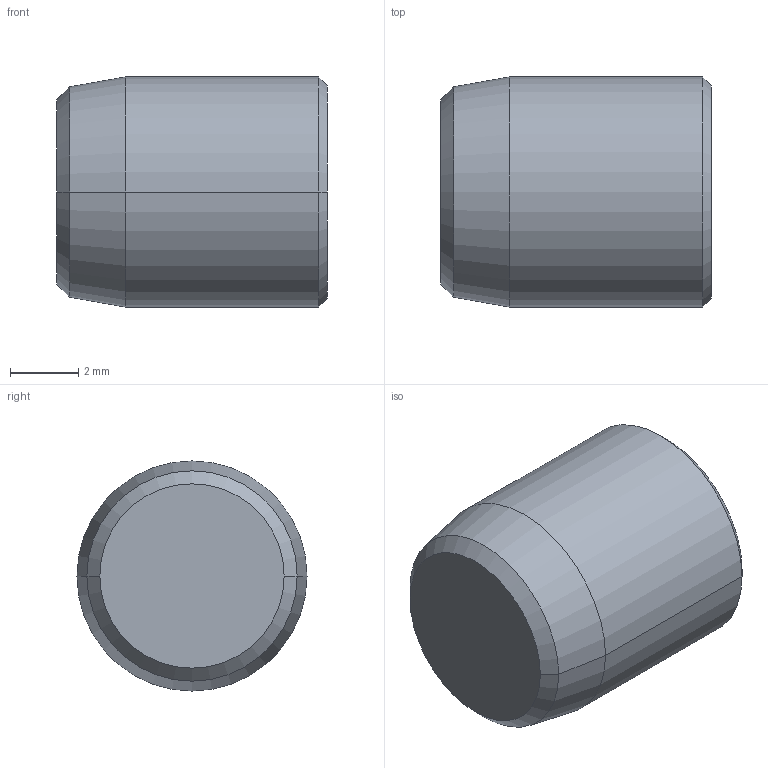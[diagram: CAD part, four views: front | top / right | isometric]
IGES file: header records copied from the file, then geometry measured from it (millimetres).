
Start section:  PTC IGES file: bb56.igs
Global section: file name: bb56.igs; native system: Pro/ENGINEER by Parametric Technology Corporation; preprocessor: 2002350; author: chant; organization: Unknown; date: 070705.143419; units: inch
Bounding box: 7.95 x 6.75 x 6.75 mm (x, y, z)
Surface area: 228.2 mm2 (no closed solid volume)
Topology: 0 solids, 0 shells, 13 faces, 65 edges, 75 vertices
Faces by surface type: revolution 10, bspline 3
